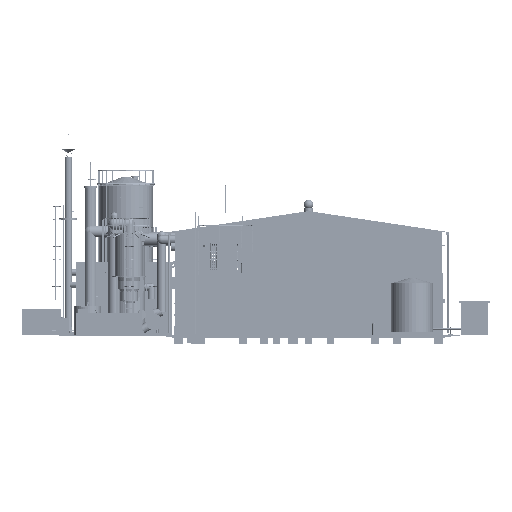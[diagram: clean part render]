
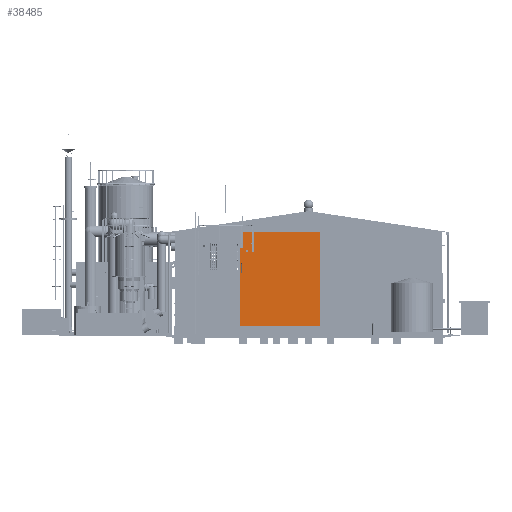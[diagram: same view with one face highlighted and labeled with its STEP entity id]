
A CAD part, left-side view. The second image highlights one B-rep face of the part: STEP entity #38485.
In plain terms, the highlighted planar face has unit normal (-1, 0, 0).
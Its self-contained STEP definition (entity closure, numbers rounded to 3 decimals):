
#38485 = ADVANCED_FACE('',(#38486),#38520,.F.);
#38486 = FACE_BOUND('',#38487,.F.);
#38487 = EDGE_LOOP('',(#38488,#38498,#38506,#38514));
#38488 = ORIENTED_EDGE('',*,*,#38489,.F.);
#38489 = EDGE_CURVE('',#38490,#38492,#38494,.T.);
#38490 = VERTEX_POINT('',#38491);
#38491 = CARTESIAN_POINT('',(0.,0.,0.));
#38492 = VERTEX_POINT('',#38493);
#38493 = CARTESIAN_POINT('',(0.,0.,6400.));
#38494 = LINE('',#38495,#38496);
#38495 = CARTESIAN_POINT('',(0.,0.,0.));
#38496 = VECTOR('',#38497,1.);
#38497 = DIRECTION('',(0.,0.,1.));
#38498 = ORIENTED_EDGE('',*,*,#38499,.T.);
#38499 = EDGE_CURVE('',#38490,#38500,#38502,.T.);
#38500 = VERTEX_POINT('',#38501);
#38501 = CARTESIAN_POINT('',(0.,5400.,0.));
#38502 = LINE('',#38503,#38504);
#38503 = CARTESIAN_POINT('',(0.,0.,0.));
#38504 = VECTOR('',#38505,1.);
#38505 = DIRECTION('',(0.,1.,0.));
#38506 = ORIENTED_EDGE('',*,*,#38507,.T.);
#38507 = EDGE_CURVE('',#38500,#38508,#38510,.T.);
#38508 = VERTEX_POINT('',#38509);
#38509 = CARTESIAN_POINT('',(0.,5400.,6400.));
#38510 = LINE('',#38511,#38512);
#38511 = CARTESIAN_POINT('',(0.,5400.,0.));
#38512 = VECTOR('',#38513,1.);
#38513 = DIRECTION('',(0.,0.,1.));
#38514 = ORIENTED_EDGE('',*,*,#38515,.F.);
#38515 = EDGE_CURVE('',#38492,#38508,#38516,.T.);
#38516 = LINE('',#38517,#38518);
#38517 = CARTESIAN_POINT('',(0.,0.,6400.));
#38518 = VECTOR('',#38519,1.);
#38519 = DIRECTION('',(0.,1.,0.));
#38520 = PLANE('',#38521);
#38521 = AXIS2_PLACEMENT_3D('',#38522,#38523,#38524);
#38522 = CARTESIAN_POINT('',(0.,0.,0.));
#38523 = DIRECTION('',(1.,0.,0.));
#38524 = DIRECTION('',(0.,0.,1.));
